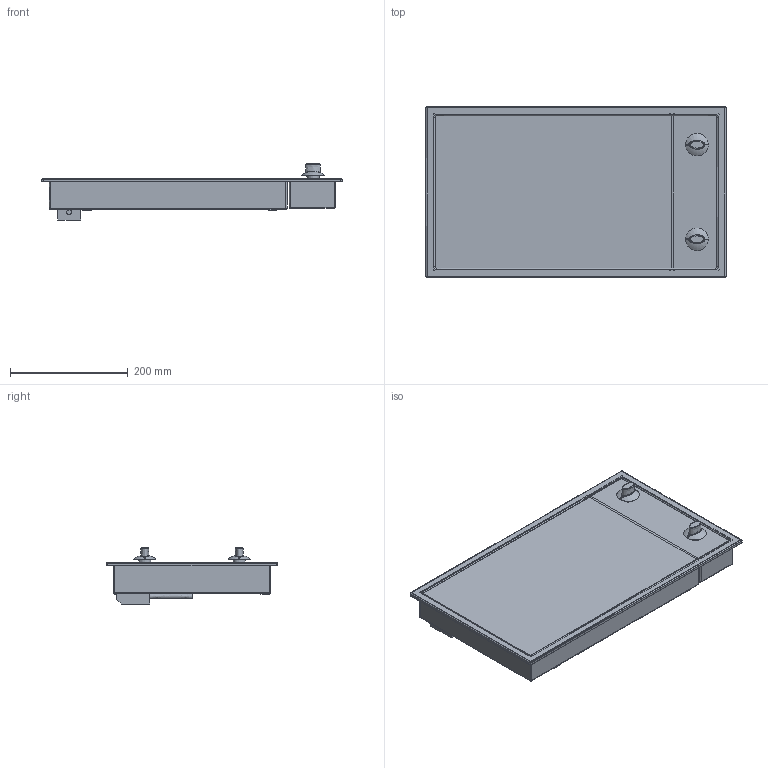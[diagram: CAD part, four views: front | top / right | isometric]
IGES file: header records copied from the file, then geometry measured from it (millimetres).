
Start section:  Alias DesignStudio for Windows version 12.0 IGES version 5.3
Global section: file name: C:\00000LAVORI_IN_CORSO\techimpex\crystal 2\crystal 2.iges; native system: Alias DesignStudio for Windows V12.0; preprocessor: 12.0; author: admin; organization: Unknown; date: 20080718.163827; units: millimetre
Bounding box: 510 x 290 x 95.3 mm (x, y, z)
Surface area: 446950.3 mm2 (no closed solid volume)
Topology: 0 solids, 0 shells, 212 faces, 1162 edges, 1119 vertices
Faces by surface type: bspline 212
